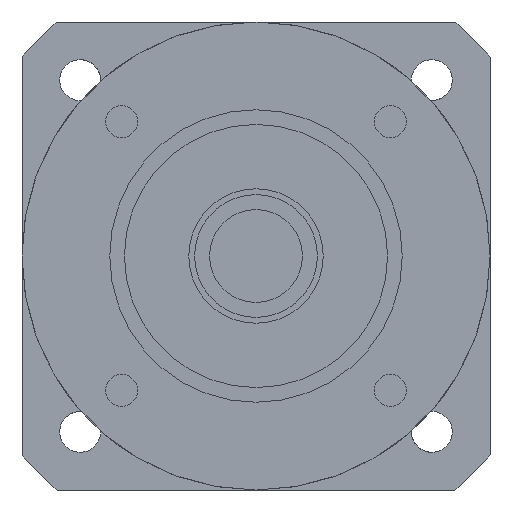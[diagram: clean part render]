
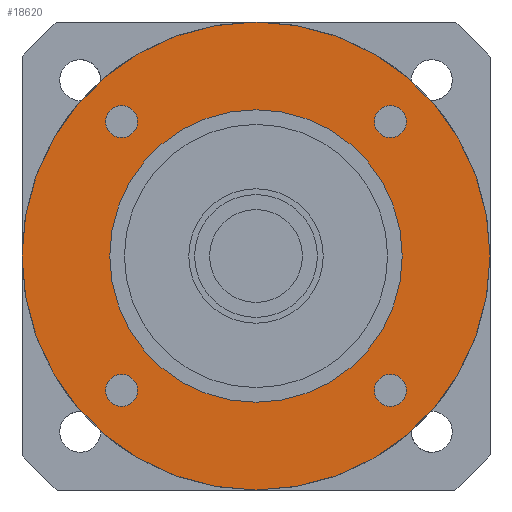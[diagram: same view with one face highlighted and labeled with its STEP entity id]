
A CAD part, left-side view. The second image highlights one B-rep face of the part: STEP entity #18620.
In plain terms, the highlighted planar face has unit normal (-1, 0, 0) as drawn and (0, 0, -1) by its records, which use the part's own axes.
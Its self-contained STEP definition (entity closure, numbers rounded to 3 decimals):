
#17440=CARTESIAN_POINT('',(-40.,0.,-42.));
#17450=VERTEX_POINT('',#17440);
#17540=CARTESIAN_POINT('',(40.,0.,-42.));
#17550=VERTEX_POINT('',#17540);
#17580=CARTESIAN_POINT('',(0.,0.,-42.)
);
#17590=DIRECTION('',(0.,0.,1.));
#17600=DIRECTION('',(1.,0.,0.));
#17610=AXIS2_PLACEMENT_3D('',#17580,#17590,#17600);
#17620=CIRCLE('',#17610,40.);
#17630=CARTESIAN_POINT('',(0.,-40.,-42.));
#17640=VERTEX_POINT('',#17630);
#17650=EDGE_CURVE('',#17640,#17550,#17620,.T.);
#17670=EDGE_CURVE('',#17450,#17640,#17620,.T.);
#17720=CARTESIAN_POINT('',(0.,0.,-42.)
);
#17730=DIRECTION('',(0.,0.,-1.));
#17740=DIRECTION('',(1.,0.,0.));
#17750=AXIS2_PLACEMENT_3D('',#17720,#17730,#17740);
#17760=PLANE('',#17750);
#17770=CARTESIAN_POINT('',(22.981,-22.981,-42.));
#17780=DIRECTION('',(0.,0.,-1.));
#17790=DIRECTION('',(1.,0.,0.));
#17800=AXIS2_PLACEMENT_3D('',#17770,#17780,#17790);
#17810=CIRCLE('',#17800,2.75);
#17820=CARTESIAN_POINT('',(25.731,-22.981,-42.));
#17830=VERTEX_POINT('',#17820);
#17840=CARTESIAN_POINT('',(20.231,-22.981,-42.));
#17850=VERTEX_POINT('',#17840);
#17860=EDGE_CURVE('',#17830,#17850,#17810,.T.);
#17870=ORIENTED_EDGE('',*,*,#17860,.F.);
#17880=EDGE_CURVE('',#17850,#17830,#17810,.T.);
#17890=ORIENTED_EDGE('',*,*,#17880,.F.);
#17900=EDGE_LOOP('',(#17890,#17870));
#17910=FACE_BOUND('',#17900,.T.);
#17920=ORIENTED_EDGE('',*,*,#17650,.F.);
#17930=EDGE_CURVE('',#17550,#17450,#17620,.T.);
#17940=ORIENTED_EDGE('',*,*,#17930,.F.);
#17950=ORIENTED_EDGE('',*,*,#17670,.F.);
#17960=EDGE_LOOP('',(#17950,#17940,#17920));
#17970=FACE_OUTER_BOUND('',#17960,.T.);
#17980=CARTESIAN_POINT('',(22.981,22.981,-42.));
#17990=DIRECTION('',(0.,0.,-1.));
#18000=DIRECTION('',(0.,1.,0.));
#18010=AXIS2_PLACEMENT_3D('',#17980,#17990,#18000);
#18020=CIRCLE('',#18010,2.75);
#18030=CARTESIAN_POINT('',(22.981,25.731,-42.));
#18040=VERTEX_POINT('',#18030);
#18050=CARTESIAN_POINT('',(22.981,20.231,-42.));
#18060=VERTEX_POINT('',#18050);
#18070=EDGE_CURVE('',#18040,#18060,#18020,.T.);
#18080=ORIENTED_EDGE('',*,*,#18070,.F.);
#18090=EDGE_CURVE('',#18060,#18040,#18020,.T.);
#18100=ORIENTED_EDGE('',*,*,#18090,.F.);
#18110=EDGE_LOOP('',(#18100,#18080));
#18120=FACE_BOUND('',#18110,.T.);
#18130=CARTESIAN_POINT('',(-22.981,22.981,-42.));
#18140=DIRECTION('',(0.,0.,-1.));
#18150=DIRECTION('',(-1.,0.,0.));
#18160=AXIS2_PLACEMENT_3D('',#18130,#18140,#18150);
#18170=CIRCLE('',#18160,2.75);
#18180=CARTESIAN_POINT('',(-25.731,22.981,-42.));
#18190=VERTEX_POINT('',#18180);
#18200=CARTESIAN_POINT('',(-20.231,22.981,-42.));
#18210=VERTEX_POINT('',#18200);
#18220=EDGE_CURVE('',#18190,#18210,#18170,.T.);
#18230=ORIENTED_EDGE('',*,*,#18220,.F.);
#18240=EDGE_CURVE('',#18210,#18190,#18170,.T.);
#18250=ORIENTED_EDGE('',*,*,#18240,.F.);
#18260=EDGE_LOOP('',(#18250,#18230));
#18270=FACE_BOUND('',#18260,.T.);
#18280=CARTESIAN_POINT('',(-22.981,-22.981,-42.));
#18290=DIRECTION('',(0.,0.,-1.));
#18300=DIRECTION('',(0.,-1.,0.));
#18310=AXIS2_PLACEMENT_3D('',#18280,#18290,#18300);
#18320=CIRCLE('',#18310,2.75);
#18330=CARTESIAN_POINT('',(-22.981,-25.731,-42.));
#18340=VERTEX_POINT('',#18330);
#18350=CARTESIAN_POINT('',(-22.981,-20.231,-42.));
#18360=VERTEX_POINT('',#18350);
#18370=EDGE_CURVE('',#18340,#18360,#18320,.T.);
#18380=ORIENTED_EDGE('',*,*,#18370,.F.);
#18390=EDGE_CURVE('',#18360,#18340,#18320,.T.);
#18400=ORIENTED_EDGE('',*,*,#18390,.F.);
#18410=EDGE_LOOP('',(#18400,#18380));
#18420=FACE_BOUND('',#18410,.T.);
#18430=CARTESIAN_POINT('',(0.,0.,
-42.));
#18440=DIRECTION('',(0.,0.,1.));
#18450=DIRECTION('',(0.,1.,0.));
#18460=AXIS2_PLACEMENT_3D('',#18430,#18440,#18450);
#18470=CIRCLE('',#18460,25.);
#18480=CARTESIAN_POINT('',(-25.,0.,-42.));
#18490=VERTEX_POINT('',#18480);
#18500=CARTESIAN_POINT('',(25.,0.,-42.));
#18510=VERTEX_POINT('',#18500);
#18520=EDGE_CURVE('',#18490,#18510,#18470,.T.);
#18530=ORIENTED_EDGE('',*,*,#18520,.T.);
#18540=CARTESIAN_POINT('',(0.,25.,-42.));
#18550=VERTEX_POINT('',#18540);
#18560=EDGE_CURVE('',#18550,#18490,#18470,.T.);
#18570=ORIENTED_EDGE('',*,*,#18560,.T.);
#18580=EDGE_CURVE('',#18510,#18550,#18470,.T.);
#18590=ORIENTED_EDGE('',*,*,#18580,.T.);
#18600=EDGE_LOOP('',(#18590,#18570,#18530));
#18610=FACE_BOUND('',#18600,.T.);
#18620=ADVANCED_FACE('',(#17910,#17970,#18120,#18270,#18420,#18610),
#17760,.T.);
